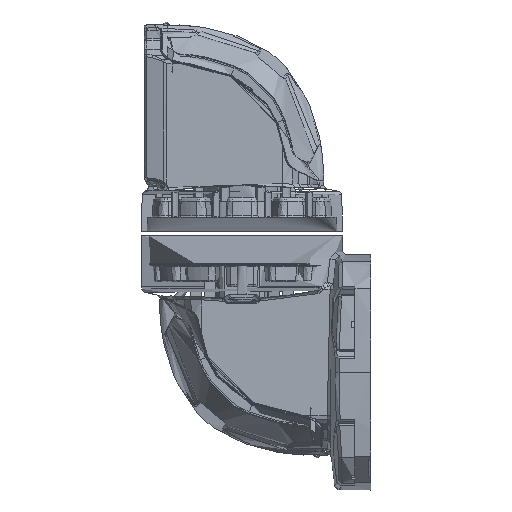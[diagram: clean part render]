
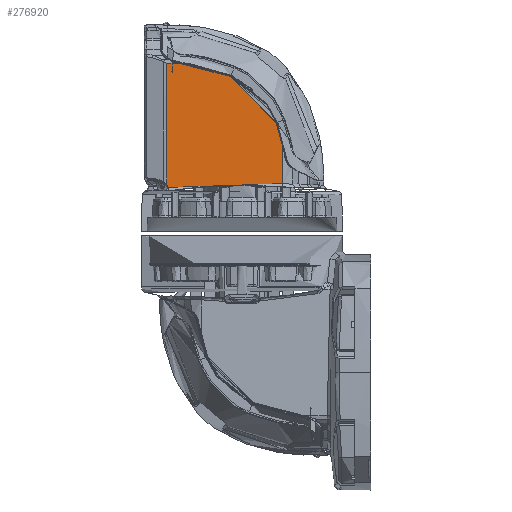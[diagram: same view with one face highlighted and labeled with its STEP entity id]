
A CAD part, top view. The second image highlights one B-rep face of the part: STEP entity #276920.
In plain terms, the highlighted planar face has unit normal (0, 0.009, 1) as drawn and (-0.009, 0, 1) by its records, which use the part's own axes.
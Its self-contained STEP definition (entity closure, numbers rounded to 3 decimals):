
#992 = B_SPLINE_CURVE_WITH_KNOTS ( 'NONE', 3,
 ( #193186, #43539, #91931, #94094, #320711, #318556 ),
 .UNSPECIFIED., .F., .F.,
 ( 4, 2, 4 ),
 ( 0., 0.5, 1. ),
 .UNSPECIFIED. ) ;
#10338 = B_SPLINE_CURVE_WITH_KNOTS ( 'NONE', 3,
 ( #248968, #171993, #224740, #197316, #222572, #49806, #123558, #148819 ),
 .UNSPECIFIED., .F., .F.,
 ( 4, 2, 2, 4 ),
 ( 0., 0.499, 0.998, 1. ),
 .UNSPECIFIED. ) ;
#10519 = CARTESIAN_POINT ( 'NONE',  ( 148.4, -97.094, 7.424 ) ) ;
#11822 = CARTESIAN_POINT ( 'NONE',  ( 118.05, -136.492, 7.159 ) ) ;
#20433 = EDGE_CURVE ( 'NONE', #157369, #88136, #160043, .T. ) ;
#35171 = ORIENTED_EDGE ( 'NONE', *, *, #241954, .T. ) ;
#41739 = ORIENTED_EDGE ( 'NONE', *, *, #206729, .F. ) ;
#41851 = EDGE_CURVE ( 'NONE', #129592, #182680, #992, .T. ) ;
#43539 = CARTESIAN_POINT ( 'NONE',  ( 149.97, -96.508, 7.438 ) ) ;
#44929 = ORIENTED_EDGE ( 'NONE', *, *, #41851, .F. ) ;
#45053 = CARTESIAN_POINT ( 'NONE',  ( 181.935, -120.373, 7.717 ) ) ;
#47363 = CARTESIAN_POINT ( 'NONE',  ( 116.884, -146.453, 7.149 ) ) ;
#48499 = CARTESIAN_POINT ( 'NONE',  ( 177.502, -152.772, 7.678 ) ) ;
#49806 = CARTESIAN_POINT ( 'NONE',  ( 146.696, -97.75, 7.409 ) ) ;
#55665 = VERTEX_POINT ( 'NONE', #221516 ) ;
#68552 = EDGE_CURVE ( 'NONE', #158395, #129592, #138312, .T. ) ;
#69932 = B_SPLINE_CURVE_WITH_KNOTS ( 'NONE', 3,
 ( #295778, #141769, #317785, #267240 ),
 .UNSPECIFIED., .F., .F.,
 ( 4, 4 ),
 ( 0., 1. ),
 .UNSPECIFIED. ) ;
#70141 = ORIENTED_EDGE ( 'NONE', *, *, #200389, .F. ) ;
#72213 = CARTESIAN_POINT ( 'NONE',  ( 177.315, -94.267, 7.677 ) ) ;
#73768 = CARTESIAN_POINT ( 'NONE',  ( 178.028, -152.356, 7.683 ) ) ;
#80702 = LINE ( 'NONE', #72213, #234160 ) ;
#86943 = B_SPLINE_CURVE_WITH_KNOTS ( 'NONE', 3,
 ( #95778, #47363, #170626, #148540 ),
 .UNSPECIFIED., .F., .F.,
 ( 4, 4 ),
 ( 0., 1. ),
 .UNSPECIFIED. ) ;
#88136 = VERTEX_POINT ( 'NONE', #319119 ) ;
#91931 = CARTESIAN_POINT ( 'NONE',  ( 151.569, -95.985, 7.452 ) ) ;
#94094 = CARTESIAN_POINT ( 'NONE',  ( 154.799, -95.046, 7.48 ) ) ;
#94549 = DIRECTION ( 'NONE',  ( 0., -1., 0. ) ) ;
#95332 = DIRECTION ( 'NONE',  ( -1., 0., -0.009 ) ) ;
#95778 = CARTESIAN_POINT ( 'NONE',  ( 116.681, -147.272, 7.147 ) ) ;
#96739 = CARTESIAN_POINT ( 'NONE',  ( 177.502, -152.772, 7.678 ) ) ;
#99072 = CARTESIAN_POINT ( 'NONE',  ( 179.234, -151.762, 7.693 ) ) ;
#99345 = VERTEX_POINT ( 'NONE', #256479 ) ;
#101596 = CARTESIAN_POINT ( 'NONE',  ( 146.758, -97.725, 7.41 ) ) ;
#123558 = CARTESIAN_POINT ( 'NONE',  ( 146.737, -97.734, 7.41 ) ) ;
#125584 = AXIS2_PLACEMENT_3D ( 'NONE', #45053, #221076, #94549 ) ;
#129592 = VERTEX_POINT ( 'NONE', #10519 ) ;
#132298 = LINE ( 'NONE', #246962, #258302 ) ;
#137196 = CARTESIAN_POINT ( 'NONE',  ( 117.123, -144.779, 7.151 ) ) ;
#138312 = B_SPLINE_CURVE_WITH_KNOTS ( 'NONE', 3,
 ( #309861, #159225, #150172, #322909 ),
 .UNSPECIFIED., .F., .F.,
 ( 4, 4 ),
 ( 0., 1. ),
 .UNSPECIFIED. ) ;
#141769 = CARTESIAN_POINT ( 'NONE',  ( 176.222, -132.75, 7.667 ) ) ;
#148540 = CARTESIAN_POINT ( 'NONE',  ( 117.123, -144.779, 7.151 ) ) ;
#148819 = CARTESIAN_POINT ( 'NONE',  ( 146.758, -97.725, 7.41 ) ) ;
#150172 = CARTESIAN_POINT ( 'NONE',  ( 147.85, -97.298, 7.419 ) ) ;
#156796 = EDGE_CURVE ( 'NONE', #99345, #158395, #10338, .T. ) ;
#157369 = VERTEX_POINT ( 'NONE', #96739 ) ;
#158395 = VERTEX_POINT ( 'NONE', #101596 ) ;
#159225 = CARTESIAN_POINT ( 'NONE',  ( 147.303, -97.509, 7.415 ) ) ;
#160043 = B_SPLINE_CURVE_WITH_KNOTS ( 'NONE', 3,
 ( #48499, #73768, #248745, #99072 ),
 .UNSPECIFIED., .F., .F.,
 ( 4, 4 ),
 ( 0., 1. ),
 .UNSPECIFIED. ) ;
#160905 = EDGE_CURVE ( 'NONE', #55665, #182680, #80702, .T. ) ;
#170626 = CARTESIAN_POINT ( 'NONE',  ( 117.029, -145.617, 7.15 ) ) ;
#171993 = CARTESIAN_POINT ( 'NONE',  ( 125.501, -115.495, 7.224 ) ) ;
#174354 = LINE ( 'NONE', #185088, #182223 ) ;
#180754 = B_SPLINE_CURVE_WITH_KNOTS ( 'NONE', 3,
 ( #137196, #11822, #244954, #219657 ),
 .UNSPECIFIED., .F., .F.,
 ( 4, 4 ),
 ( 0., 1. ),
 .UNSPECIFIED. ) ;
#182223 = VECTOR ( 'NONE', #207102, 1000. ) ;
#182680 = VERTEX_POINT ( 'NONE', #222652 ) ;
#185088 = CARTESIAN_POINT ( 'NONE',  ( 116.681, -152.772, 7.147 ) ) ;
#187973 = CARTESIAN_POINT ( 'NONE',  ( 116.681, -152.772, 7.147 ) ) ;
#193186 = CARTESIAN_POINT ( 'NONE',  ( 148.4, -97.094, 7.424 ) ) ;
#197316 = CARTESIAN_POINT ( 'NONE',  ( 136.698, -102.911, 7.322 ) ) ;
#200389 = EDGE_CURVE ( 'NONE', #157369, #222702, #132298, .T. ) ;
#206729 = EDGE_CURVE ( 'NONE', #222702, #290282, #174354, .T. ) ;
#207102 = DIRECTION ( 'NONE',  ( 0., 1., 0. ) ) ;
#213510 = CARTESIAN_POINT ( 'NONE',  ( 117.123, -144.779, 7.151 ) ) ;
#214073 = ORIENTED_EDGE ( 'NONE', *, *, #284068, .F. ) ;
#219657 = CARTESIAN_POINT ( 'NONE',  ( 123.346, -120.679, 7.206 ) ) ;
#221076 = DIRECTION ( 'NONE',  ( -0.009, 0., 1. ) ) ;
#221516 = CARTESIAN_POINT ( 'NONE',  ( 177.315, -94.267, 7.677 ) ) ;
#222572 = CARTESIAN_POINT ( 'NONE',  ( 141.456, -99.821, 7.364 ) ) ;
#222652 = CARTESIAN_POINT ( 'NONE',  ( 158.07, -94.267, 7.509 ) ) ;
#222702 = VERTEX_POINT ( 'NONE', #187973 ) ;
#222734 = DIRECTION ( 'NONE',  ( -1., 0., -0.009 ) ) ;
#224740 = CARTESIAN_POINT ( 'NONE',  ( 128.677, -110.791, 7.252 ) ) ;
#234160 = VECTOR ( 'NONE', #95332, 1000. ) ;
#239517 = CARTESIAN_POINT ( 'NONE',  ( 116.681, -147.272, 7.147 ) ) ;
#241954 = EDGE_CURVE ( 'NONE', #88136, #55665, #69932, .T. ) ;
#244954 = CARTESIAN_POINT ( 'NONE',  ( 120.145, -128.378, 7.178 ) ) ;
#246962 = CARTESIAN_POINT ( 'NONE',  ( 177.502, -152.772, 7.678 ) ) ;
#248745 = CARTESIAN_POINT ( 'NONE',  ( 178.613, -152.015, 7.688 ) ) ;
#248968 = CARTESIAN_POINT ( 'NONE',  ( 123.346, -120.679, 7.206 ) ) ;
#251481 = EDGE_LOOP ( 'NONE', ( #254888, #44929, #258038, #274697, #214073, #257862, #41739, #70141, #263003, #35171 ) ) ;
#254888 = ORIENTED_EDGE ( 'NONE', *, *, #160905, .T. ) ;
#256479 = CARTESIAN_POINT ( 'NONE',  ( 123.346, -120.679, 7.206 ) ) ;
#257862 = ORIENTED_EDGE ( 'NONE', *, *, #298484, .F. ) ;
#258038 = ORIENTED_EDGE ( 'NONE', *, *, #68552, .F. ) ;
#258070 = VERTEX_POINT ( 'NONE', #213510 ) ;
#258302 = VECTOR ( 'NONE', #222734, 1000. ) ;
#263003 = ORIENTED_EDGE ( 'NONE', *, *, #20433, .T. ) ;
#267240 = CARTESIAN_POINT ( 'NONE',  ( 177.315, -94.267, 7.677 ) ) ;
#272719 = PLANE ( 'NONE',  #125584 ) ;
#274697 = ORIENTED_EDGE ( 'NONE', *, *, #156796, .F. ) ;
#276920 = ADVANCED_FACE ( 'NONE', ( #295523 ), #272719, .T. ) ;
#284068 = EDGE_CURVE ( 'NONE', #258070, #99345, #180754, .T. ) ;
#290282 = VERTEX_POINT ( 'NONE', #239517 ) ;
#295523 = FACE_OUTER_BOUND ( 'NONE', #251481, .T. ) ;
#295778 = CARTESIAN_POINT ( 'NONE',  ( 179.234, -151.762, 7.693 ) ) ;
#298484 = EDGE_CURVE ( 'NONE', #290282, #258070, #86943, .T. ) ;
#309861 = CARTESIAN_POINT ( 'NONE',  ( 146.758, -97.725, 7.41 ) ) ;
#317785 = CARTESIAN_POINT ( 'NONE',  ( 175.577, -113.437, 7.661 ) ) ;
#318556 = CARTESIAN_POINT ( 'NONE',  ( 158.07, -94.267, 7.509 ) ) ;
#319119 = CARTESIAN_POINT ( 'NONE',  ( 179.234, -151.762, 7.693 ) ) ;
#320711 = CARTESIAN_POINT ( 'NONE',  ( 156.43, -94.631, 7.494 ) ) ;
#322909 = CARTESIAN_POINT ( 'NONE',  ( 148.4, -97.094, 7.424 ) ) ;
